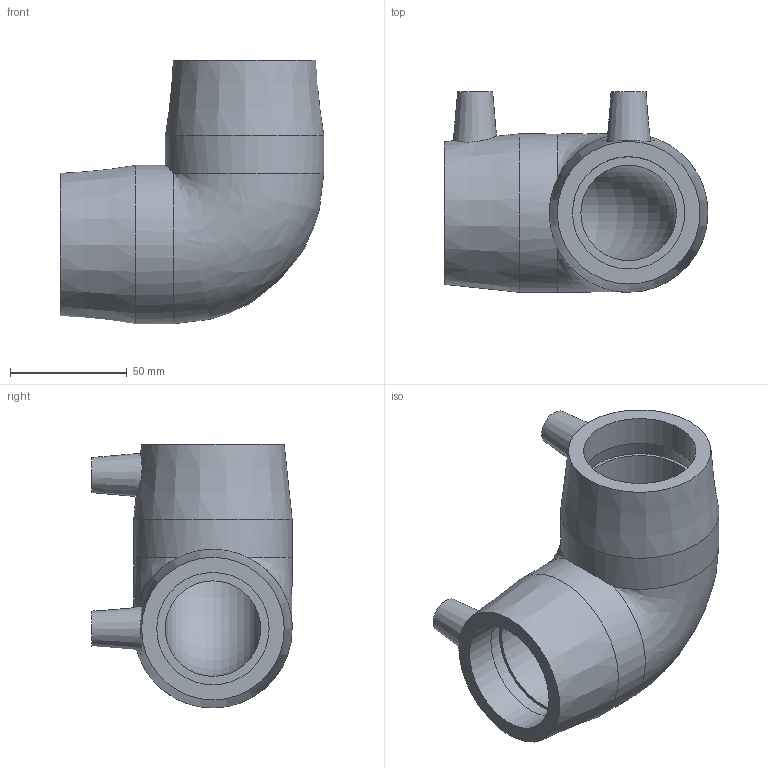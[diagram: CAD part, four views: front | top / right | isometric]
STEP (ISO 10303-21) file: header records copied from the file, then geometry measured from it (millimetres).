
FILE_DESCRIPTION(/* description */ ('PLASSON 90° ELBOW ASTM 1 1/2'''''),/* implementation_level */ '2;1');
FILE_NAME(/* name */ 'C:\Dropbox\KIMPROJECTS-Inventor 2019\99-16-3568-Processing Inch\ASTM ElectroFusion 2021\5905B\5905B003015.ipt.stp',/* time_stamp */ '2021-08-30T09:49:48+03:00',/* author */ ('KIM'),/* organization */ (''),/* preprocessor_version */ 'ST-DEVELOPER v17.2',/* originating_system */ 'Autodesk Inventor 2019',/* authorisation */ '');
FILE_SCHEMA (('AUTOMOTIVE_DESIGN { 1 0 10303 214 3 1 1 }'));
Length unit declared in the file: inch
Products named in the file (1): 5905B003015
Bounding box: 112.86 x 85.72 x 112.86 mm (x, y, z)
Volume: 269679.4 mm3; surface area: 57933.5 mm2
Topology: 1 solids, 1 shells, 30 faces, 66 edges, 46 vertices
Faces by surface type: plane 12, cylinder 10, cone 6, bspline 1, torus 1
Full cylindrical faces by diameter (mm): 4 x2, 10 x2, 48.1 x4, 67.818 x2
Entity records: 981 total; most frequent: CARTESIAN_POINT 235, DIRECTION 164, ORIENTED_EDGE 128, AXIS2_PLACEMENT_3D 74, EDGE_CURVE 64, VERTEX_POINT 46, CIRCLE 43, EDGE_LOOP 42
